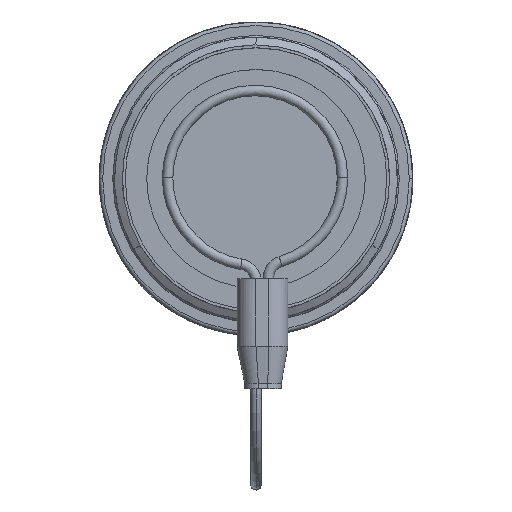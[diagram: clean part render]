
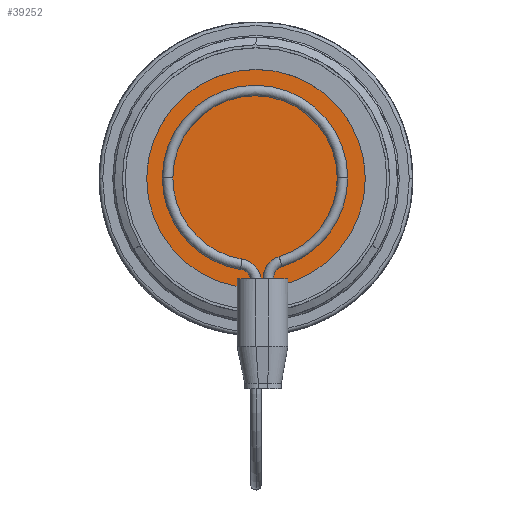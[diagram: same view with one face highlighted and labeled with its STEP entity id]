
A CAD part, top view. The second image highlights one B-rep face of the part: STEP entity #39252.
In plain terms, the highlighted planar face has unit normal (0, 0, 1) as drawn and (0, 0, -1) by its records, which use the part's own axes.
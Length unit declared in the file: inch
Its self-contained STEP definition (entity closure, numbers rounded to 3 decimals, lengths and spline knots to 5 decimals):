
#1381 = DIRECTION ( 'NONE',  ( -1., 0., 0. ) ) ;
#2373 = VERTEX_POINT ( 'NONE', #8139 ) ;
#4057 = CARTESIAN_POINT ( 'NONE',  ( 0., 0., -0.38 ) ) ;
#8139 = CARTESIAN_POINT ( 'NONE',  ( -0.625, 0., -0.38 ) ) ;
#17350 = EDGE_CURVE ( 'NONE', #18807, #2373, #65845, .T. ) ;
#17993 = AXIS2_PLACEMENT_3D ( 'NONE', #59601, #33252, #1381 ) ;
#18807 = VERTEX_POINT ( 'NONE', #50334 ) ;
#19849 = DIRECTION ( 'NONE',  ( -1., 0., 0. ) ) ;
#24826 = ORIENTED_EDGE ( 'NONE', *, *, #17350, .T. ) ;
#26642 = DIRECTION ( 'NONE',  ( -1., 0., 0. ) ) ;
#28364 = ORIENTED_EDGE ( 'NONE', *, *, #46600, .T. ) ;
#30121 = DIRECTION ( 'NONE',  ( 0., 0., -1. ) ) ;
#33252 = DIRECTION ( 'NONE',  ( 0., 0., -1. ) ) ;
#37572 = FACE_OUTER_BOUND ( 'NONE', #45709, .T. ) ;
#39252 = ADVANCED_FACE ( 'NONE', ( #37572 ), #53664, .T. ) ;
#44245 = CIRCLE ( 'NONE', #17993, 0.625 ) ;
#45709 = EDGE_LOOP ( 'NONE', ( #28364, #24826 ) ) ;
#46600 = EDGE_CURVE ( 'NONE', #2373, #18807, #44245, .T. ) ;
#50334 = CARTESIAN_POINT ( 'NONE',  ( 0.625, 0., -0.38 ) ) ;
#53326 = CARTESIAN_POINT ( 'NONE',  ( 0., 0.625, -0.38 ) ) ;
#53664 = PLANE ( 'NONE',  #61033 ) ;
#58455 = DIRECTION ( 'NONE',  ( 0., 0., -1. ) ) ;
#59601 = CARTESIAN_POINT ( 'NONE',  ( 0., 0., -0.38 ) ) ;
#61033 = AXIS2_PLACEMENT_3D ( 'NONE', #53326, #58455, #26642 ) ;
#63680 = AXIS2_PLACEMENT_3D ( 'NONE', #4057, #30121, #19849 ) ;
#65845 = CIRCLE ( 'NONE', #63680, 0.625 ) ;
